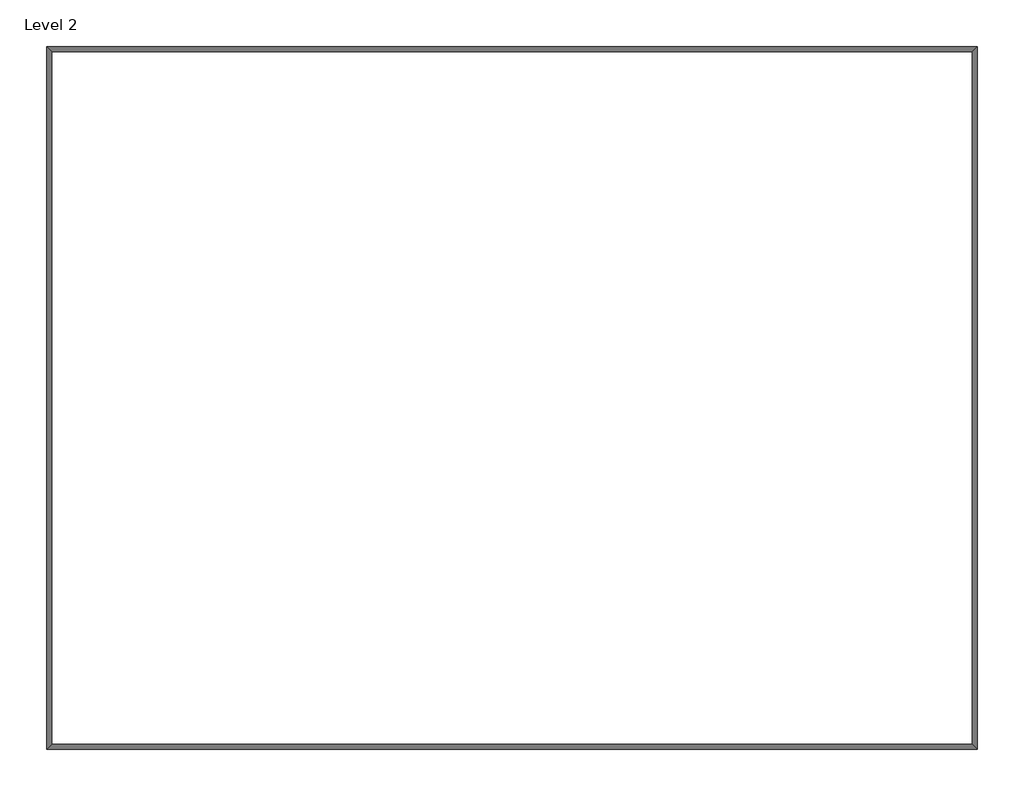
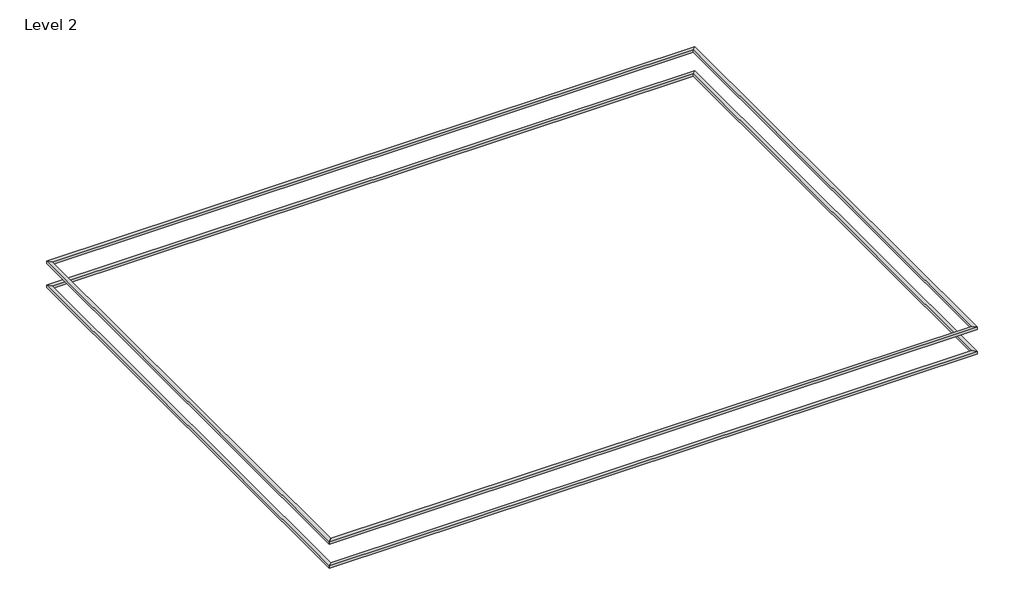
# One storey: 8 proxies.
"""IFC4 building model written with IfcOpenShell, lengths in millimetres."""

from ifc_helpers import new_model, si_unit, frame, origin, place, context, project, spatial, polyline, outline, extrude, element, save

model = new_model("IFC4")

# Units and contexts
model_context = context("Model", 3, world=origin())
ifc_project = project(units=[si_unit("LENGTHUNIT", "METRE", prefix="MILLI")], contexts=[model_context])

# Site, building, storey
site = spatial("IfcSite", under=ifc_project)
building = spatial("IfcBuilding", under=site)
storey = spatial("IfcBuildingStorey", under=building, Name="Level 2", Elevation=4000.0)

# Proxies
placement = place(None, origin())
element("IfcBuildingElementProxy", 1, Name="Reveals", at=placement, inside=storey, context=model_context, shape_type="SweptSolid", body=[
    extrude(outline(polyline([(-1525.2150684, 3743.407772), (-1627.7150684, 3845.907772), (17077.2849316, 3845.907772), (16974.7849316, 3743.407772), (-1525.2150684, 3743.407772)])), frame((0.0, 0.0, 4449.0), z_axis=(0.0, 0.0, 1.0), x_axis=(1.0, 0.0, 0.0)), (0.0, 0.0, 1.0), 75.0),
])
element("IfcBuildingElementProxy", 2, Name="Reveals", at=placement, inside=storey, context=model_context, shape_type="SweptSolid", body=[
    extrude(outline(polyline([(-1525.2150684, 3743.407772), (-1627.7150684, 3845.907772), (17077.2849316, 3845.907772), (16974.7849316, 3743.407772), (-1525.2150684, 3743.407772)])), frame((0.0, 0.0, 5186.0), z_axis=(0.0, 0.0, 1.0), x_axis=(1.0, 0.0, 0.0)), (0.0, 0.0, 1.0), 75.0),
])
element("IfcBuildingElementProxy", 3, Name="Reveals", at=placement, inside=storey, context=model_context, shape_type="SweptSolid", body=[
    extrude(outline(polyline([(-1525.2150684, -10184.592228), (-1627.7150684, -10287.092228), (-1627.7150684, 3845.907772), (-1525.2150684, 3743.407772), (-1525.2150684, -10184.592228)])), frame((0.0, 0.0, 4449.0), z_axis=(0.0, 0.0, 1.0), x_axis=(1.0, 0.0, 0.0)), (0.0, 0.0, 1.0), 75.0),
])
element("IfcBuildingElementProxy", 4, Name="Reveals", at=placement, inside=storey, context=model_context, shape_type="SweptSolid", body=[
    extrude(outline(polyline([(-1525.2150684, -10184.592228), (-1627.7150684, -10287.092228), (-1627.7150684, 3845.907772), (-1525.2150684, 3743.407772), (-1525.2150684, -10184.592228)])), frame((0.0, 0.0, 5186.0), z_axis=(0.0, 0.0, 1.0), x_axis=(1.0, 0.0, 0.0)), (0.0, 0.0, 1.0), 75.0),
])
element("IfcBuildingElementProxy", 5, Name="Reveals", at=placement, inside=storey, context=model_context, shape_type="SweptSolid", body=[
    extrude(outline(polyline([(16974.7849316, -10184.592228), (17077.2849316, -10287.092228), (-1627.7150684, -10287.092228), (-1525.2150684, -10184.592228), (16974.7849316, -10184.592228)])), frame((0.0, 0.0, 4449.0), z_axis=(0.0, 0.0, 1.0), x_axis=(1.0, 0.0, 0.0)), (0.0, 0.0, 1.0), 75.0),
])
element("IfcBuildingElementProxy", 6, Name="Reveals", at=placement, inside=storey, context=model_context, shape_type="SweptSolid", body=[
    extrude(outline(polyline([(16974.7849316, -10184.592228), (17077.2849316, -10287.092228), (-1627.7150684, -10287.092228), (-1525.2150684, -10184.592228), (16974.7849316, -10184.592228)])), frame((0.0, 0.0, 5186.0), z_axis=(0.0, 0.0, 1.0), x_axis=(1.0, 0.0, 0.0)), (0.0, 0.0, 1.0), 75.0),
])
element("IfcBuildingElementProxy", 7, Name="Reveals", at=placement, inside=storey, context=model_context, shape_type="SweptSolid", body=[
    extrude(outline(polyline([(16974.7849316, 3743.407772), (17077.2849316, 3845.907772), (17077.2849316, -10287.092228), (16974.7849316, -10184.592228), (16974.7849316, 3743.407772)])), frame((0.0, 0.0, 4449.0), z_axis=(0.0, 0.0, 1.0), x_axis=(1.0, 0.0, 0.0)), (0.0, 0.0, 1.0), 75.0),
])
element("IfcBuildingElementProxy", 8, Name="Reveals", at=placement, inside=storey, context=model_context, shape_type="SweptSolid", body=[
    extrude(outline(polyline([(16974.7849316, 3743.407772), (17077.2849316, 3845.907772), (17077.2849316, -10287.092228), (16974.7849316, -10184.592228), (16974.7849316, 3743.407772)])), frame((0.0, 0.0, 5186.0), z_axis=(0.0, 0.0, 1.0), x_axis=(1.0, 0.0, 0.0)), (0.0, 0.0, 1.0), 75.0),
])

save(model, "model.ifc")
